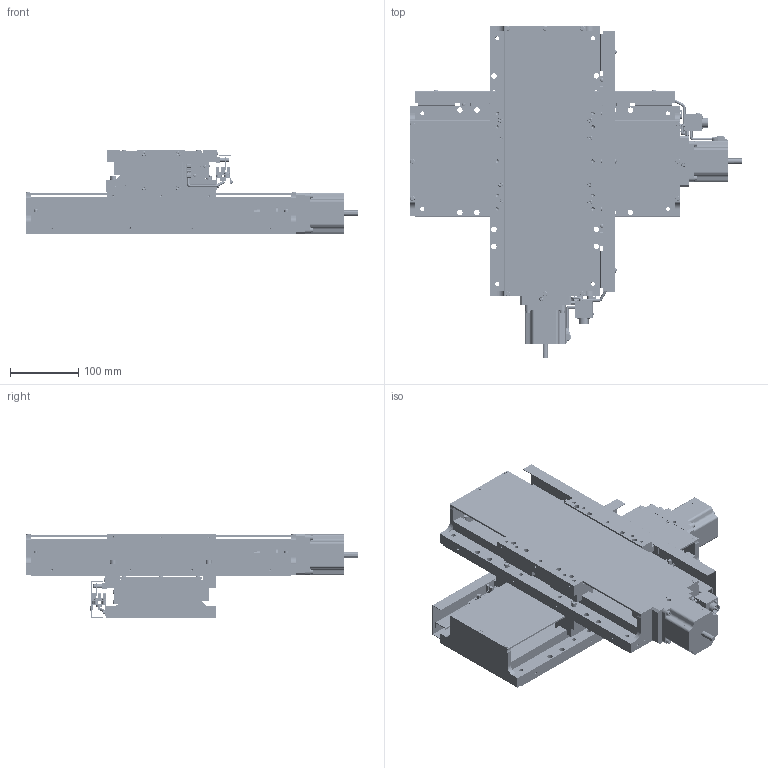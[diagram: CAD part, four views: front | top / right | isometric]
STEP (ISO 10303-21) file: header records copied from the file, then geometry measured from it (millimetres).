
FILE_DESCRIPTION( (''), '2;1');
FILE_NAME ('YA16F-L22201.stp','2021-01-05T15:24:20',(''),(''),'spGate 15.6.6','','');
FILE_SCHEMA (('AUTOMOTIVE_DESIGN'));
Length unit declared in the file: millimetre
Products named in the file (4): Assembly; YA16F-L22201-prt0; YA16F-L22201-prt1; YA16F-L22201-prt2
Assembly tree (3 placements, depth 2):
  Assembly
    YA16F-L22201-prt0
    YA16F-L22201-prt1
    YA16F-L22201-prt2
Bounding box: 486.5 x 486.5 x 124 mm (x, y, z)
Volume: 4308718.1 mm3; surface area: 1053265.4 mm2
Topology: 3 solids, 3 shells, 5113 faces, 12725 edges, 7902 vertices
Faces by surface type: plane 3038, cylinder 1239, bspline 772, sphere 64
Entity records: 257113 total; most frequent: CARTESIAN_POINT 38042, ORIENTED_EDGE 25074, DIRECTION 23386, COLOUR_RGB 17653, PRESENTATION_STYLE_ASSIGNMENT 17653, STYLED_ITEM 17653, EDGE_CURVE 12537, DRAUGHTING_PRE_DEFINED_CURVE_FONT 12537
